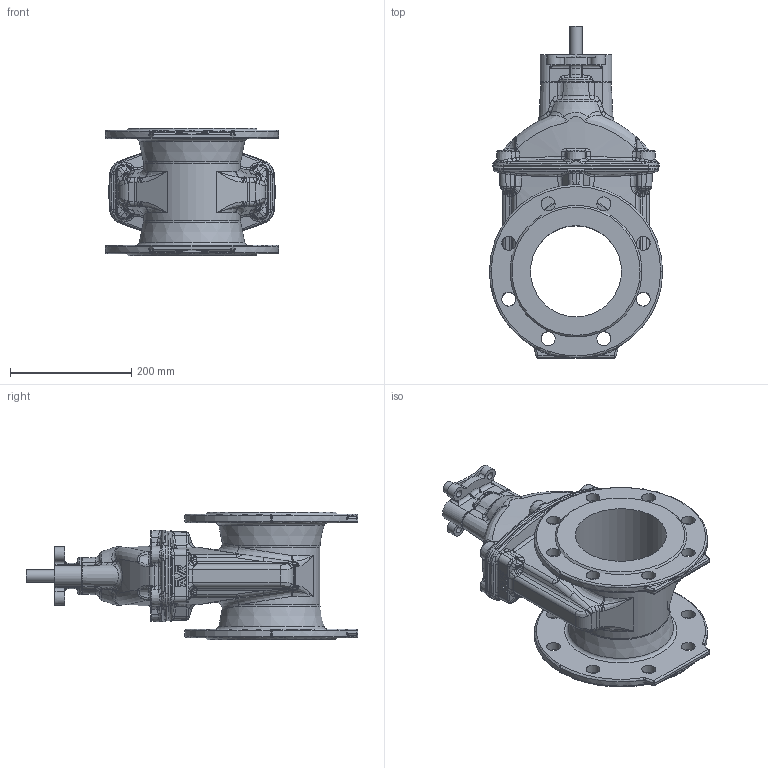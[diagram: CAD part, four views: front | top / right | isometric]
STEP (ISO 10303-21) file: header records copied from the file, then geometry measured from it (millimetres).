
FILE_DESCRIPTION (( 'STEP AP203' ), '1' );
FILE_NAME ('O_06_42_DN150_X1XXX_REV02.step', '2025-12-18T06:57:31', ( '' ), ( '' ), 'SwSTEP 2.0', 'SolidWorks 2022', '' );
FILE_SCHEMA (( 'CONFIG_CONTROL_DESIGN' ));
Products named in the file (1): O_06_42_DN150_X1XXX_REV02
Bounding box: 284.98 x 546.5 x 210 mm (x, y, z)
Volume: 6916865.6 mm3; surface area: 592022 mm2
Topology: 1 solids, 1 shells, 1011 faces, 2454 edges, 1396 vertices
Faces by surface type: bspline 486, cylinder 192, plane 155, torus 94, cone 68, sphere 16
Full cylindrical faces by diameter (mm): 12 x4, 20 x1, 23 x16, 73 x1, 150 x1
Entity records: 44348 total; most frequent: CARTESIAN_POINT 24789, ORIENTED_EDGE 4708, DIRECTION 3305, EDGE_CURVE 2354, AXIS2_PLACEMENT_3D 1421, VERTEX_POINT 1371, EDGE_LOOP 1079, FACE_OUTER_BOUND 1038
